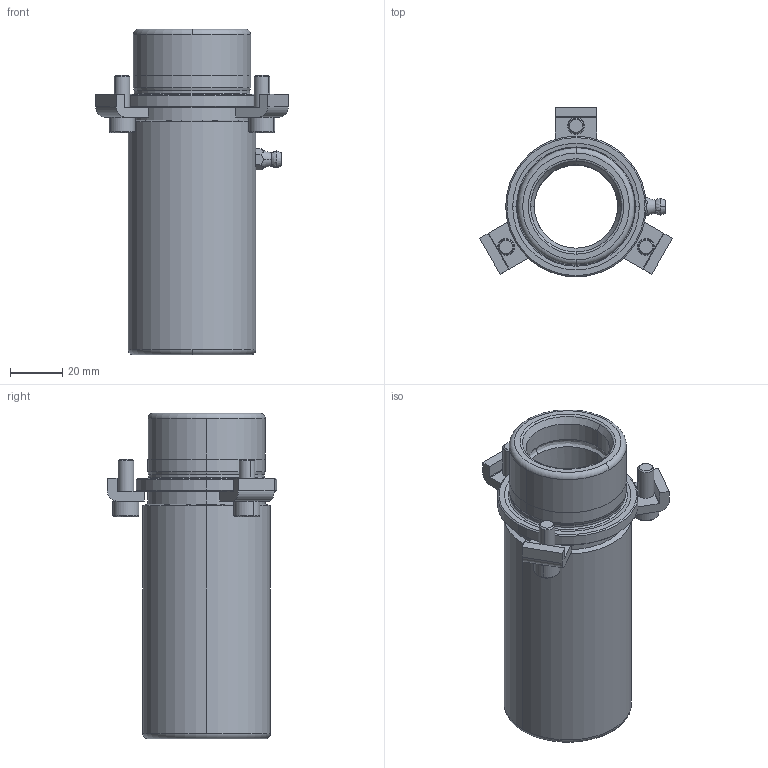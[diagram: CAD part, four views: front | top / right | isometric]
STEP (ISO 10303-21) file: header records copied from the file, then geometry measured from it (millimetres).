
FILE_DESCRIPTION((''),'2;1');
FILE_NAME('B10_032_100.stp','2008-11-06T08:47:54',(''),(''),'Mechanical Desktop 2009','Mechanical Desktop 2009',', , ');
FILE_SCHEMA(('CONFIG_CONTROL_DESIGN'));
Length unit declared in the file: millimetre
Products named in the file (2): Product; blmdl1
Assembly tree (1 placements, depth 2):
  Product
    blmdl1
Bounding box: 74.11 x 65.2 x 125 mm (x, y, z)
Volume: 132259.8 mm3; surface area: 39711.1 mm2
Topology: 8 solids, 8 shells, 170 faces, 445 edges, 292 vertices
Faces by surface type: plane 68, cylinder 48, cone 22, bspline 16, torus 16
Entity records: 6504 total; most frequent: CARTESIAN_POINT 2130, DIRECTION 939, ORIENTED_EDGE 882, EDGE_CURVE 441, AXIS2_PLACEMENT_3D 371, VERTEX_POINT 290, CIRCLE 215, VECTOR 197
